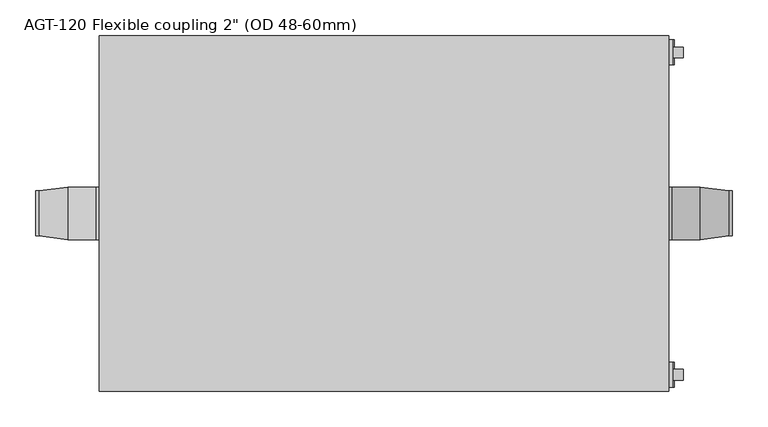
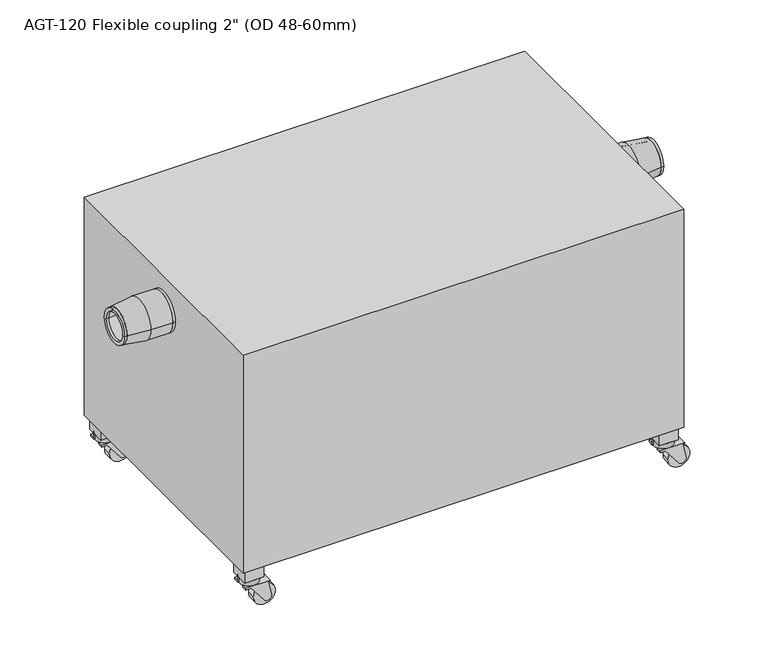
"""IFC4 building model written with IfcOpenShell, lengths in millimetres: unitary equipment geometry."""

from ifc_helpers import new_model, si_unit, point, frame, frame_2d, origin, place, context, project, spatial, polyline, circle_curve, trimmed, segment, composite_curve, outline, extrude, faceted_brep, source, transform, mapped, element, save
from ifc_brep_helpers import plane_surface, cylinder_surface, revolved_surface, advanced_brep


def unitary_equipment_0f0e036c(model_context):
    return source(origin(), model_context, "Body", "SolidModel", [
        advanced_brep(
        [(484.694081, 31.65, 422.5), (484.694081, -31.65, 422.5), (484.694081, -25.0, 422.5), (484.694081, 25.0, 422.5), (444.694081, 36.8, 422.5), (444.694081, -36.8, 422.5), (405.0, 36.8, 422.5), (405.0, -36.8, 422.5), (405.0, 30.15, 422.5), (405.0, -30.15, 422.5), (444.694081, 30.15, 422.5), (444.694081, -30.15, 422.5)],
        [
            (0, 1, circle_curve(frame((484.694081, 0.0, 422.5), z_axis=(1.0, 0.0, 0.0), x_axis=(0.0, 1.0, 0.0)), 31.65)),
            (1, 0, circle_curve(frame((484.694081, 0.0, 422.5), z_axis=(1.0, 0.0, 0.0), x_axis=(0.0, -1.0, 0.0)), 31.65)),
            (2, 3, circle_curve(frame((484.694081, 0.0, 422.5), z_axis=(-1.0, 0.0, 0.0), x_axis=(0.0, 1.0, 0.0)), 25.0)),
            (3, 2, circle_curve(frame((484.694081, 0.0, 422.5), z_axis=(-1.0, 0.0, 0.0), x_axis=(0.0, -1.0, 0.0)), 25.0)),
            (0, 4),
            (4, 5, circle_curve(frame((444.694081, 0.0, 422.5), z_axis=(1.0, 0.0, 0.0), x_axis=(0.0, 1.0, 0.0)), 36.8)),
            (5, 1),
            (5, 4, circle_curve(frame((444.694081, 0.0, 422.5), z_axis=(1.0, 0.0, 0.0), x_axis=(0.0, -1.0, 0.0)), 36.8)),
            (6, 7, circle_curve(frame((405.0, 0.0, 422.5), z_axis=(-1.0, 0.0, 0.0), x_axis=(0.0, -1.0, 0.0)), 36.8)),
            (7, 6, circle_curve(frame((405.0, 0.0, 422.5), z_axis=(-1.0, 0.0, 0.0), x_axis=(0.0, -1.0, 0.0)), 36.8)),
            (8, 9, circle_curve(frame((405.0, 0.0, 422.5), z_axis=(1.0, 0.0, 0.0), x_axis=(0.0, -1.0, 0.0)), 30.15)),
            (9, 8, circle_curve(frame((405.0, 0.0, 422.5), z_axis=(1.0, 0.0, 0.0), x_axis=(0.0, -1.0, 0.0)), 30.15)),
            (7, 5),
            (4, 6),
            (8, 10),
            (10, 11, circle_curve(frame((444.694081, 0.0, 422.5), z_axis=(1.0, 0.0, 0.0), x_axis=(0.0, -1.0, 0.0)), 30.15)),
            (11, 9),
            (11, 10, circle_curve(frame((444.694081, 0.0, 422.5), z_axis=(1.0, 0.0, 0.0), x_axis=(0.0, -1.0, 0.0)), 30.15)),
            (10, 3),
            (2, 11),
        ],
        [
            plane_surface(frame((484.694081, 0.0, 422.5), z_axis=(1.0, 0.0, 0.0), x_axis=(0.0, 0.0, -1.0))),
            revolved_surface(polyline([(484.694081, 31.649999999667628, 422.5), (444.694081, 36.8, 422.5)]), (730.5193237, 0.0, 422.5), (-1.0, 0.0, 0.0)),
            revolved_surface(polyline([(484.694081, -31.649999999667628, 422.5), (444.694081, -36.8, 422.5)]), (730.5193237, 0.0, 422.5), (-1.0, 0.0, 0.0)),
            plane_surface(frame((405.0, -36.8, 422.5), z_axis=(-1.0, 0.0, 0.0), x_axis=(0.0, 0.0, 1.0))),
            cylinder_surface(frame((444.694081, 0.0, 422.5), z_axis=(-1.0, 0.0, 0.0), x_axis=(0.0, -1.0, 0.0)), 36.8),
            revolved_surface(polyline([(444.694081, -30.15, 422.5), (405.0, -30.15, 422.5)]), (444.694081, 0.0, 422.5), (1.0, 0.0, 0.0)),
            revolved_surface(polyline([(444.694081, 30.15, 422.5), (484.694081, 25.000000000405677, 422.5)]), (678.8688383, 0.0, 422.5), (-1.0, 0.0, 0.0)),
        ],
        [
            (0, [[1, 2], [3, 4]]),
            (1, [[-1, 5, 6, 7]]),
            (2, [[-2, -7, 8, -5]]),
            (3, [[9, 10], [11, 12]]),
            (4, [[-10, 13, -6, 14]]),
            (4, [[-9, -14, -8, -13]]),
            (5, [[-11, 15, 16, 17]]),
            (5, [[-12, -17, 18, -15]]),
            (6, [[19, -3, 20, -16]]),
            (6, [[-19, -18, -20, -4]]),
        ],
    ),
        extrude(outline(composite_curve([segment(trimmed(circle_curve(frame_2d((0.0, 422.5)), 36.8), [point((36.8, 422.5))], [point((-36.8, 422.5))], False, "CARTESIAN"), True, "CONTINUOUS"), segment(trimmed(circle_curve(frame_2d((0.0, 422.5)), 36.8), [point((-36.8, 422.5))], [point((36.8, 422.5))], False, "CARTESIAN"), True, "CONTINUOUS")], self_intersect=False), holes=[composite_curve([segment(trimmed(circle_curve(frame_2d((0.0, 422.5)), 30.15), [point((30.15, 422.5))], [point((-30.15, 422.5))], True, "CARTESIAN"), True, "CONTINUOUS"), segment(trimmed(circle_curve(frame_2d((0.0, 422.5)), 30.15), [point((-30.15, 422.5))], [point((30.15, 422.5))], True, "CARTESIAN"), True, "CONTINUOUS")], self_intersect=False)]), frame((400.0, 0.0, 0.0), z_axis=(1.0, 0.0, 0.0), x_axis=(0.0, 1.0, 0.0)), (0.0, 0.0, 1.0), 5.0),
        extrude(outline(composite_curve([segment(trimmed(circle_curve(frame_2d((0.0, 422.5)), 31.65), [point((31.65, 422.5))], [point((-31.65, 422.5))], False, "CARTESIAN"), True, "CONTINUOUS"), segment(trimmed(circle_curve(frame_2d((0.0, 422.5)), 31.65), [point((-31.65, 422.5))], [point((31.65, 422.5))], False, "CARTESIAN"), True, "CONTINUOUS")], self_intersect=False), holes=[composite_curve([segment(trimmed(circle_curve(frame_2d((0.0, 422.5)), 25.0), [point((25.0, 422.5))], [point((-25.0, 422.5))], True, "CARTESIAN"), True, "CONTINUOUS"), segment(trimmed(circle_curve(frame_2d((0.0, 422.5)), 25.0), [point((-25.0, 422.5))], [point((25.0, 422.5))], True, "CARTESIAN"), True, "CONTINUOUS")], self_intersect=False)]), frame((484.694081, 0.0, 0.0), z_axis=(1.0, 0.0, 0.0), x_axis=(0.0, 1.0, 0.0)), (0.0, 0.0, 1.0), 5.0),
        advanced_brep(
        [(405.5, 209.0, 49.9879884), (361.0, 209.0, 49.9879884), (361.0, 209.0, 46.001375), (370.7057978, 209.0, 46.001375), (394.7212283, 209.0, 15.4460703), (407.8500166, 209.0, 20.009866), (402.0603884, 209.0, 48.4879884), (405.5, 209.0, 48.4879884), (405.5, 244.0, 49.9879884), (405.5, 244.0, 48.4879884), (402.0603884, 244.0, 48.4879884), (407.8500166, 244.0, 20.009866), (394.7212283, 244.0, 15.4460703), (370.7057978, 244.0, 46.001375), (361.0, 244.0, 46.001375), (361.0, 244.0, 49.9879884), (361.0, 234.0, 46.001375), (361.0, 234.0, 48.4879884), (361.0, 219.0, 48.4879884), (361.0, 219.0, 46.001375), (402.0603884, 219.0, 48.4879884), (402.0603884, 234.0, 48.4879884), (370.7057978, 234.0, 46.001375), (394.7212283, 234.0, 15.4460703), (407.8500166, 234.0, 20.009866), (407.8500166, 219.0, 20.009866), (394.7212283, 219.0, 15.4460703), (370.7057978, 219.0, 46.001375)],
        [
            (0, 1),
            (1, 2),
            (2, 3),
            (3, 4),
            (4, 5, circle_curve(frame((400.5, 209.0, 19.9879884), z_axis=(0.0, -1.0, 0.0), x_axis=(1.0, 0.0, 0.0)), 7.3500491)),
            (5, 6),
            (6, 7),
            (7, 0),
            (8, 9),
            (9, 10),
            (10, 11),
            (11, 12, circle_curve(frame((400.5, 244.0, 19.9879884), z_axis=(0.0, 1.0, 0.0), x_axis=(1.0, 0.0, 0.0)), 7.3500491)),
            (12, 13),
            (13, 14),
            (14, 15),
            (15, 8),
            (0, 8),
            (15, 1),
            (14, 16),
            (16, 17),
            (17, 18),
            (18, 19),
            (19, 2),
            (7, 9),
            (6, 20),
            (20, 18),
            (17, 21),
            (21, 10),
            (16, 22),
            (22, 23),
            (23, 24, circle_curve(frame((400.5, 234.0, 19.9879884), z_axis=(0.0, -1.0, 0.0), x_axis=(1.0, 0.0, 0.0)), 7.3500491)),
            (24, 21),
            (20, 25),
            (25, 26, circle_curve(frame((400.5, 219.0, 19.9879884), z_axis=(0.0, 1.0, 0.0), x_axis=(1.0, 0.0, 0.0)), 7.3500491)),
            (26, 27),
            (27, 19),
            (27, 3),
            (13, 22),
            (26, 4),
            (12, 23),
            (25, 5),
            (11, 24),
        ],
        [
            plane_surface(frame((366.3571745, 209.0, 49.9879884), z_axis=(0.0, -1.0, 0.0), x_axis=(-1.0, 0.0, 0.0))),
            plane_surface(frame((366.3571745, 244.0, 49.9879884), z_axis=(0.0, 1.0, 0.0), x_axis=(1.0, 0.0, 0.0))),
            plane_surface(frame((405.5, 209.0, 49.9879884), z_axis=(0.0, 0.0, 1.0), x_axis=(0.0, 1.0, 0.0))),
            plane_surface(frame((361.0, 209.0, 49.9879884), z_axis=(-1.0, 0.0, 0.0), x_axis=(0.0, 1.0, 0.0))),
            plane_surface(frame((405.5, 209.0, 48.4879884), z_axis=(1.0, 0.0, 0.0), x_axis=(0.0, 1.0, 0.0))),
            plane_surface(frame((402.0603884, 209.0, 48.4879884), z_axis=(0.0, 0.0, -1.0), x_axis=(0.0, 1.0, 0.0))),
            plane_surface(frame((434.838042, 234.0, 4.9523362), z_axis=(0.0, -1.0, 0.0), x_axis=(-1.0, 0.0, 0.0))),
            plane_surface(frame((434.838042, 219.0, 48.4879884), z_axis=(0.0, 1.0, 0.0), x_axis=(-1.0, 0.0, 0.0))),
            plane_surface(frame((361.0, 209.0, 46.001375), z_axis=(0.0, 0.0, -1.0), x_axis=(0.0, 1.0, 0.0))),
            plane_surface(frame((370.7057978, 209.0, 46.001375), z_axis=(-0.786222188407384, 0.0, -0.6179439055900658), x_axis=(0.0, 1.0, 0.0))),
            cylinder_surface(frame((400.5, 244.0, 19.9879884), z_axis=(0.0, -1.0, 0.0), x_axis=(1.0, 0.0, 0.0)), 7.3500491),
            plane_surface(frame((407.8500166, 209.0, 20.009866), z_axis=(0.9799536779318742, 0.0, 0.19922547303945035), x_axis=(0.0, 1.0, 0.0))),
        ],
        [
            (0, [[1, 2, 3, 4, 5, 6, 7, 8]]),
            (1, [[9, 10, 11, 12, 13, 14, 15, 16]]),
            (2, [[-1, 17, -16, 18]]),
            (3, [[-2, -18, -15, 19, 20, 21, 22, 23]]),
            (4, [[-8, 24, -9, -17]]),
            (5, [[-7, 25, 26, -21, 27, 28, -10, -24]]),
            (6, [[-27, -20, 29, 30, 31, 32]]),
            (7, [[-26, 33, 34, 35, 36, -22]]),
            (8, [[-3, -23, -36, 37]]),
            (8, [[-14, 38, -29, -19]]),
            (9, [[-4, -37, -35, 39]]),
            (9, [[-13, 40, -30, -38]]),
            (10, [[-5, -39, -34, 41]]),
            (10, [[-12, 42, -31, -40]]),
            (11, [[-6, -41, -33, -25]]),
            (11, [[-11, -28, -32, -42]]),
        ],
    ),
        extrude(outline(composite_curve([segment(trimmed(circle_curve(frame_2d((20.0, 400.5)), 20.0), [point((20.0, 380.5))], [point((20.0, 420.5))], False, "CARTESIAN"), True, "CONTINUOUS"), segment(trimmed(circle_curve(frame_2d((20.0, 400.5)), 20.0), [point((20.0, 420.5))], [point((20.0, 380.5))], False, "CARTESIAN"), True, "CONTINUOUS")], self_intersect=False)), frame((0.0, 219.0, 0.0), z_axis=(0.0, 1.0, 0.0), x_axis=(0.0, 0.0, 1.0)), (0.0, 0.0, 1.0), 15.0),
        extrude(outline(composite_curve([segment(trimmed(circle_curve(frame_2d((376.5, 226.5)), 17.5), [point((359.0, 226.5))], [point((394.0, 226.5))], False, "CARTESIAN"), True, "CONTINUOUS"), segment(trimmed(circle_curve(frame_2d((376.5, 226.5)), 17.5), [point((394.0, 226.5))], [point((359.0, 226.5))], False, "CARTESIAN"), True, "CONTINUOUS")], self_intersect=False)), frame((0.0, 0.0, 49.9879884), z_axis=(0.0, 0.0, 1.0), x_axis=(1.0, 0.0, 0.0)), (0.0, 0.0, 1.0), 10.0120116),
        advanced_brep(
        [(-347.5, 209.0, 49.9879884), (-392.0, 209.0, 49.9879884), (-392.0, 209.0, 46.001375), (-382.2942022, 209.0, 46.001375), (-358.2787717, 209.0, 15.4460703), (-345.1499834, 209.0, 20.009866), (-350.9396116, 209.0, 48.4879884), (-347.5, 209.0, 48.4879884), (-347.5, 244.0, 49.9879884), (-347.5, 244.0, 48.4879884), (-350.9396116, 244.0, 48.4879884), (-345.1499834, 244.0, 20.009866), (-358.2787717, 244.0, 15.4460703), (-382.2942022, 244.0, 46.001375), (-392.0, 244.0, 46.001375), (-392.0, 244.0, 49.9879884), (-392.0, 234.0, 46.001375), (-392.0, 234.0, 48.4879884), (-392.0, 219.0, 48.4879884), (-392.0, 219.0, 46.001375), (-350.9396116, 219.0, 48.4879884), (-350.9396116, 234.0, 48.4879884), (-382.2942022, 234.0, 46.001375), (-358.2787717, 234.0, 15.4460703), (-345.1499834, 234.0, 20.009866), (-345.1499834, 219.0, 20.009866), (-358.2787717, 219.0, 15.4460703), (-382.2942022, 219.0, 46.001375)],
        [
            (0, 1),
            (1, 2),
            (2, 3),
            (3, 4),
            (4, 5, circle_curve(frame((-352.5, 209.0, 19.9879884), z_axis=(0.0, -1.0, 0.0), x_axis=(1.0, 0.0, 0.0)), 7.3500491)),
            (5, 6),
            (6, 7),
            (7, 0),
            (8, 9),
            (9, 10),
            (10, 11),
            (11, 12, circle_curve(frame((-352.5, 244.0, 19.9879884), z_axis=(0.0, 1.0, 0.0), x_axis=(1.0, 0.0, 0.0)), 7.3500491)),
            (12, 13),
            (13, 14),
            (14, 15),
            (15, 8),
            (0, 8),
            (15, 1),
            (14, 16),
            (16, 17),
            (17, 18),
            (18, 19),
            (19, 2),
            (7, 9),
            (6, 20),
            (20, 18),
            (17, 21),
            (21, 10),
            (16, 22),
            (22, 23),
            (23, 24, circle_curve(frame((-352.5, 234.0, 19.9879884), z_axis=(0.0, -1.0, 0.0), x_axis=(1.0, 0.0, 0.0)), 7.3500491)),
            (24, 21),
            (20, 25),
            (25, 26, circle_curve(frame((-352.5, 219.0, 19.9879884), z_axis=(0.0, 1.0, 0.0), x_axis=(1.0, 0.0, 0.0)), 7.3500491)),
            (26, 27),
            (27, 19),
            (27, 3),
            (13, 22),
            (26, 4),
            (12, 23),
            (25, 5),
            (11, 24),
        ],
        [
            plane_surface(frame((-386.6428255, 209.0, 49.9879884), z_axis=(0.0, -1.0, 0.0), x_axis=(-1.0, 0.0, 0.0))),
            plane_surface(frame((-386.6428255, 244.0, 49.9879884), z_axis=(0.0, 1.0, 0.0), x_axis=(1.0, 0.0, 0.0))),
            plane_surface(frame((-347.5, 209.0, 49.9879884), z_axis=(0.0, 0.0, 1.0), x_axis=(0.0, 1.0, 0.0))),
            plane_surface(frame((-392.0, 209.0, 49.9879884), z_axis=(-1.0, 0.0, 0.0), x_axis=(0.0, 1.0, 0.0))),
            plane_surface(frame((-347.5, 209.0, 48.4879884), z_axis=(1.0, 0.0, 0.0), x_axis=(0.0, 1.0, 0.0))),
            plane_surface(frame((-350.9396116, 209.0, 48.4879884), z_axis=(0.0, 0.0, -1.0), x_axis=(0.0, 1.0, 0.0))),
            plane_surface(frame((-318.161958, 234.0, 4.9523362), z_axis=(0.0, -1.0, 0.0), x_axis=(-1.0, 0.0, 0.0))),
            plane_surface(frame((-318.161958, 219.0, 48.4879884), z_axis=(0.0, 1.0, 0.0), x_axis=(-1.0, 0.0, 0.0))),
            plane_surface(frame((-392.0, 209.0, 46.001375), z_axis=(0.0, 0.0, -1.0), x_axis=(0.0, 1.0, 0.0))),
            plane_surface(frame((-382.2942022, 209.0, 46.001375), z_axis=(-0.786222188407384, 0.0, -0.6179439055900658), x_axis=(0.0, 1.0, 0.0))),
            cylinder_surface(frame((-352.5, 244.0, 19.9879884), z_axis=(0.0, -1.0, 0.0), x_axis=(1.0, 0.0, 0.0)), 7.3500491),
            plane_surface(frame((-345.1499834, 209.0, 20.009866), z_axis=(0.9799536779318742, 0.0, 0.19922547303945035), x_axis=(0.0, 1.0, 0.0))),
        ],
        [
            (0, [[1, 2, 3, 4, 5, 6, 7, 8]]),
            (1, [[9, 10, 11, 12, 13, 14, 15, 16]]),
            (2, [[-1, 17, -16, 18]]),
            (3, [[-2, -18, -15, 19, 20, 21, 22, 23]]),
            (4, [[-8, 24, -9, -17]]),
            (5, [[-7, 25, 26, -21, 27, 28, -10, -24]]),
            (6, [[-27, -20, 29, 30, 31, 32]]),
            (7, [[-26, 33, 34, 35, 36, -22]]),
            (8, [[-3, -23, -36, 37]]),
            (8, [[-14, 38, -29, -19]]),
            (9, [[-4, -37, -35, 39]]),
            (9, [[-13, 40, -30, -38]]),
            (10, [[-5, -39, -34, 41]]),
            (10, [[-12, 42, -31, -40]]),
            (11, [[-6, -41, -33, -25]]),
            (11, [[-11, -28, -32, -42]]),
        ],
    ),
        extrude(outline(composite_curve([segment(trimmed(circle_curve(frame_2d((20.0, -352.5)), 20.0), [point((20.0, -372.5))], [point((20.0, -332.5))], False, "CARTESIAN"), True, "CONTINUOUS"), segment(trimmed(circle_curve(frame_2d((20.0, -352.5)), 20.0), [point((20.0, -332.5))], [point((20.0, -372.5))], False, "CARTESIAN"), True, "CONTINUOUS")], self_intersect=False)), frame((0.0, 219.0, 0.0), z_axis=(0.0, 1.0, 0.0), x_axis=(0.0, 0.0, 1.0)), (0.0, 0.0, 1.0), 15.0),
        extrude(outline(composite_curve([segment(trimmed(circle_curve(frame_2d((-376.5, 226.5)), 17.5), [point((-394.0, 226.5))], [point((-359.0, 226.5))], False, "CARTESIAN"), True, "CONTINUOUS"), segment(trimmed(circle_curve(frame_2d((-376.5, 226.5)), 17.5), [point((-359.0, 226.5))], [point((-394.0, 226.5))], False, "CARTESIAN"), True, "CONTINUOUS")], self_intersect=False)), frame((0.0, 0.0, 49.9879884), z_axis=(0.0, 0.0, 1.0), x_axis=(1.0, 0.0, 0.0)), (0.0, 0.0, 1.0), 10.0120116),
        advanced_brep(
        [(405.5, -244.0, 49.9879884), (361.0, -244.0, 49.9879884), (361.0, -244.0, 46.001375), (370.7057978, -244.0, 46.001375), (394.7212283, -244.0, 15.4460703), (407.8500166, -244.0, 20.009866), (402.0603884, -244.0, 48.4879884), (405.5, -244.0, 48.4879884), (405.5, -209.0, 49.9879884), (405.5, -209.0, 48.4879884), (402.0603884, -209.0, 48.4879884), (407.8500166, -209.0, 20.009866), (394.7212283, -209.0, 15.4460703), (370.7057978, -209.0, 46.001375), (361.0, -209.0, 46.001375), (361.0, -209.0, 49.9879884), (361.0, -219.0, 46.001375), (361.0, -219.0, 48.4879884), (361.0, -234.0, 48.4879884), (361.0, -234.0, 46.001375), (402.0603884, -234.0, 48.4879884), (402.0603884, -219.0, 48.4879884), (370.7057978, -219.0, 46.001375), (394.7212283, -219.0, 15.4460703), (407.8500166, -219.0, 20.009866), (407.8500166, -234.0, 20.009866), (394.7212283, -234.0, 15.4460703), (370.7057978, -234.0, 46.001375)],
        [
            (0, 1),
            (1, 2),
            (2, 3),
            (3, 4),
            (4, 5, circle_curve(frame((400.5, -244.0, 19.9879884), z_axis=(0.0, -1.0, 0.0), x_axis=(1.0, 0.0, 0.0)), 7.3500491)),
            (5, 6),
            (6, 7),
            (7, 0),
            (8, 9),
            (9, 10),
            (10, 11),
            (11, 12, circle_curve(frame((400.5, -209.0, 19.9879884), z_axis=(0.0, 1.0, 0.0), x_axis=(1.0, 0.0, 0.0)), 7.3500491)),
            (12, 13),
            (13, 14),
            (14, 15),
            (15, 8),
            (0, 8),
            (15, 1),
            (14, 16),
            (16, 17),
            (17, 18),
            (18, 19),
            (19, 2),
            (7, 9),
            (6, 20),
            (20, 18),
            (17, 21),
            (21, 10),
            (16, 22),
            (22, 23),
            (23, 24, circle_curve(frame((400.5, -219.0, 19.9879884), z_axis=(0.0, -1.0, 0.0), x_axis=(1.0, 0.0, 0.0)), 7.3500491)),
            (24, 21),
            (20, 25),
            (25, 26, circle_curve(frame((400.5, -234.0, 19.9879884), z_axis=(0.0, 1.0, 0.0), x_axis=(1.0, 0.0, 0.0)), 7.3500491)),
            (26, 27),
            (27, 19),
            (27, 3),
            (13, 22),
            (26, 4),
            (12, 23),
            (25, 5),
            (11, 24),
        ],
        [
            plane_surface(frame((366.3571745, -244.0, 49.9879884), z_axis=(0.0, -1.0, 0.0), x_axis=(-1.0, 0.0, 0.0))),
            plane_surface(frame((366.3571745, -209.0, 49.9879884), z_axis=(0.0, 1.0, 0.0), x_axis=(1.0, 0.0, 0.0))),
            plane_surface(frame((405.5, -244.0, 49.9879884), z_axis=(0.0, 0.0, 1.0), x_axis=(0.0, 1.0, 0.0))),
            plane_surface(frame((361.0, -244.0, 49.9879884), z_axis=(-1.0, 0.0, 0.0), x_axis=(0.0, 1.0, 0.0))),
            plane_surface(frame((405.5, -244.0, 48.4879884), z_axis=(1.0, 0.0, 0.0), x_axis=(0.0, 1.0, 0.0))),
            plane_surface(frame((402.0603884, -244.0, 48.4879884), z_axis=(0.0, 0.0, -1.0), x_axis=(0.0, 1.0, 0.0))),
            plane_surface(frame((434.838042, -219.0, 4.9523362), z_axis=(0.0, -1.0, 0.0), x_axis=(-1.0, 0.0, 0.0))),
            plane_surface(frame((434.838042, -234.0, 48.4879884), z_axis=(0.0, 1.0, 0.0), x_axis=(-1.0, 0.0, 0.0))),
            plane_surface(frame((361.0, -244.0, 46.001375), z_axis=(0.0, 0.0, -1.0), x_axis=(0.0, 1.0, 0.0))),
            plane_surface(frame((370.7057978, -244.0, 46.001375), z_axis=(-0.786222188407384, 0.0, -0.6179439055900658), x_axis=(0.0, 1.0, 0.0))),
            cylinder_surface(frame((400.5, -209.0, 19.9879884), z_axis=(0.0, -1.0, 0.0), x_axis=(1.0, 0.0, 0.0)), 7.3500491),
            plane_surface(frame((407.8500166, -244.0, 20.009866), z_axis=(0.9799536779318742, 0.0, 0.19922547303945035), x_axis=(0.0, 1.0, 0.0))),
        ],
        [
            (0, [[1, 2, 3, 4, 5, 6, 7, 8]]),
            (1, [[9, 10, 11, 12, 13, 14, 15, 16]]),
            (2, [[-1, 17, -16, 18]]),
            (3, [[-2, -18, -15, 19, 20, 21, 22, 23]]),
            (4, [[-8, 24, -9, -17]]),
            (5, [[-7, 25, 26, -21, 27, 28, -10, -24]]),
            (6, [[-27, -20, 29, 30, 31, 32]]),
            (7, [[-26, 33, 34, 35, 36, -22]]),
            (8, [[-3, -23, -36, 37]]),
            (8, [[-14, 38, -29, -19]]),
            (9, [[-4, -37, -35, 39]]),
            (9, [[-13, 40, -30, -38]]),
            (10, [[-5, -39, -34, 41]]),
            (10, [[-12, 42, -31, -40]]),
            (11, [[-6, -41, -33, -25]]),
            (11, [[-11, -28, -32, -42]]),
        ],
    ),
        extrude(outline(composite_curve([segment(trimmed(circle_curve(frame_2d((20.0, 400.5)), 20.0), [point((20.0, 380.5))], [point((20.0, 420.5))], False, "CARTESIAN"), True, "CONTINUOUS"), segment(trimmed(circle_curve(frame_2d((20.0, 400.5)), 20.0), [point((20.0, 420.5))], [point((20.0, 380.5))], False, "CARTESIAN"), True, "CONTINUOUS")], self_intersect=False)), frame((0.0, -234.0, 0.0), z_axis=(0.0, 1.0, 0.0), x_axis=(0.0, 0.0, 1.0)), (0.0, 0.0, 1.0), 15.0),
        extrude(outline(composite_curve([segment(trimmed(circle_curve(frame_2d((376.5, -226.5)), 17.5), [point((359.0, -226.5))], [point((394.0, -226.5))], False, "CARTESIAN"), True, "CONTINUOUS"), segment(trimmed(circle_curve(frame_2d((376.5, -226.5)), 17.5), [point((394.0, -226.5))], [point((359.0, -226.5))], False, "CARTESIAN"), True, "CONTINUOUS")], self_intersect=False)), frame((0.0, 0.0, 49.9879884), z_axis=(0.0, 0.0, 1.0), x_axis=(1.0, 0.0, 0.0)), (0.0, 0.0, 1.0), 10.0120116),
        advanced_brep(
        [(-347.5, -244.0, 49.9879884), (-392.0, -244.0, 49.9879884), (-392.0, -244.0, 46.001375), (-382.2942022, -244.0, 46.001375), (-358.2787717, -244.0, 15.4460703), (-345.1499834, -244.0, 20.009866), (-350.9396116, -244.0, 48.4879884), (-347.5, -244.0, 48.4879884), (-347.5, -209.0, 49.9879884), (-347.5, -209.0, 48.4879884), (-350.9396116, -209.0, 48.4879884), (-345.1499834, -209.0, 20.009866), (-358.2787717, -209.0, 15.4460703), (-382.2942022, -209.0, 46.001375), (-392.0, -209.0, 46.001375), (-392.0, -209.0, 49.9879884), (-392.0, -219.0, 46.001375), (-392.0, -219.0, 48.4879884), (-392.0, -234.0, 48.4879884), (-392.0, -234.0, 46.001375), (-350.9396116, -234.0, 48.4879884), (-350.9396116, -219.0, 48.4879884), (-382.2942022, -219.0, 46.001375), (-358.2787717, -219.0, 15.4460703), (-345.1499834, -219.0, 20.009866), (-345.1499834, -234.0, 20.009866), (-358.2787717, -234.0, 15.4460703), (-382.2942022, -234.0, 46.001375)],
        [
            (0, 1),
            (1, 2),
            (2, 3),
            (3, 4),
            (4, 5, circle_curve(frame((-352.5, -244.0, 19.9879884), z_axis=(0.0, -1.0, 0.0), x_axis=(1.0, 0.0, 0.0)), 7.3500491)),
            (5, 6),
            (6, 7),
            (7, 0),
            (8, 9),
            (9, 10),
            (10, 11),
            (11, 12, circle_curve(frame((-352.5, -209.0, 19.9879884), z_axis=(0.0, 1.0, 0.0), x_axis=(1.0, 0.0, 0.0)), 7.3500491)),
            (12, 13),
            (13, 14),
            (14, 15),
            (15, 8),
            (0, 8),
            (15, 1),
            (14, 16),
            (16, 17),
            (17, 18),
            (18, 19),
            (19, 2),
            (7, 9),
            (6, 20),
            (20, 18),
            (17, 21),
            (21, 10),
            (16, 22),
            (22, 23),
            (23, 24, circle_curve(frame((-352.5, -219.0, 19.9879884), z_axis=(0.0, -1.0, 0.0), x_axis=(1.0, 0.0, 0.0)), 7.3500491)),
            (24, 21),
            (20, 25),
            (25, 26, circle_curve(frame((-352.5, -234.0, 19.9879884), z_axis=(0.0, 1.0, 0.0), x_axis=(1.0, 0.0, 0.0)), 7.3500491)),
            (26, 27),
            (27, 19),
            (27, 3),
            (13, 22),
            (26, 4),
            (12, 23),
            (25, 5),
            (11, 24),
        ],
        [
            plane_surface(frame((-386.6428255, -244.0, 49.9879884), z_axis=(0.0, -1.0, 0.0), x_axis=(-1.0, 0.0, 0.0))),
            plane_surface(frame((-386.6428255, -209.0, 49.9879884), z_axis=(0.0, 1.0, 0.0), x_axis=(1.0, 0.0, 0.0))),
            plane_surface(frame((-347.5, -244.0, 49.9879884), z_axis=(0.0, 0.0, 1.0), x_axis=(0.0, 1.0, 0.0))),
            plane_surface(frame((-392.0, -244.0, 49.9879884), z_axis=(-1.0, 0.0, 0.0), x_axis=(0.0, 1.0, 0.0))),
            plane_surface(frame((-347.5, -244.0, 48.4879884), z_axis=(1.0, 0.0, 0.0), x_axis=(0.0, 1.0, 0.0))),
            plane_surface(frame((-350.9396116, -244.0, 48.4879884), z_axis=(0.0, 0.0, -1.0), x_axis=(0.0, 1.0, 0.0))),
            plane_surface(frame((-318.161958, -219.0, 4.9523362), z_axis=(0.0, -1.0, 0.0), x_axis=(-1.0, 0.0, 0.0))),
            plane_surface(frame((-318.161958, -234.0, 48.4879884), z_axis=(0.0, 1.0, 0.0), x_axis=(-1.0, 0.0, 0.0))),
            plane_surface(frame((-392.0, -244.0, 46.001375), z_axis=(0.0, 0.0, -1.0), x_axis=(0.0, 1.0, 0.0))),
            plane_surface(frame((-382.2942022, -244.0, 46.001375), z_axis=(-0.786222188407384, 0.0, -0.6179439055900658), x_axis=(0.0, 1.0, 0.0))),
            cylinder_surface(frame((-352.5, -209.0, 19.9879884), z_axis=(0.0, -1.0, 0.0), x_axis=(1.0, 0.0, 0.0)), 7.3500491),
            plane_surface(frame((-345.1499834, -244.0, 20.009866), z_axis=(0.9799536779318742, 0.0, 0.19922547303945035), x_axis=(0.0, 1.0, 0.0))),
        ],
        [
            (0, [[1, 2, 3, 4, 5, 6, 7, 8]]),
            (1, [[9, 10, 11, 12, 13, 14, 15, 16]]),
            (2, [[-1, 17, -16, 18]]),
            (3, [[-2, -18, -15, 19, 20, 21, 22, 23]]),
            (4, [[-8, 24, -9, -17]]),
            (5, [[-7, 25, 26, -21, 27, 28, -10, -24]]),
            (6, [[-27, -20, 29, 30, 31, 32]]),
            (7, [[-26, 33, 34, 35, 36, -22]]),
            (8, [[-3, -23, -36, 37]]),
            (8, [[-14, 38, -29, -19]]),
            (9, [[-4, -37, -35, 39]]),
            (9, [[-13, 40, -30, -38]]),
            (10, [[-5, -39, -34, 41]]),
            (10, [[-12, 42, -31, -40]]),
            (11, [[-6, -41, -33, -25]]),
            (11, [[-11, -28, -32, -42]]),
        ],
    ),
        extrude(outline(composite_curve([segment(trimmed(circle_curve(frame_2d((20.0, -352.5)), 20.0), [point((20.0, -372.5))], [point((20.0, -332.5))], False, "CARTESIAN"), True, "CONTINUOUS"), segment(trimmed(circle_curve(frame_2d((20.0, -352.5)), 20.0), [point((20.0, -332.5))], [point((20.0, -372.5))], False, "CARTESIAN"), True, "CONTINUOUS")], self_intersect=False)), frame((0.0, -234.0, 0.0), z_axis=(0.0, 1.0, 0.0), x_axis=(0.0, 0.0, 1.0)), (0.0, 0.0, 1.0), 15.0),
        extrude(outline(composite_curve([segment(trimmed(circle_curve(frame_2d((-376.5, -226.5)), 17.5), [point((-394.0, -226.5))], [point((-359.0, -226.5))], False, "CARTESIAN"), True, "CONTINUOUS"), segment(trimmed(circle_curve(frame_2d((-376.5, -226.5)), 17.5), [point((-359.0, -226.5))], [point((-394.0, -226.5))], False, "CARTESIAN"), True, "CONTINUOUS")], self_intersect=False)), frame((0.0, 0.0, 49.9879884), z_axis=(0.0, 0.0, 1.0), x_axis=(1.0, 0.0, 0.0)), (0.0, 0.0, 1.0), 10.0120116),
        advanced_brep(
        [(-484.694081, -31.65, 438.5), (-484.694081, 31.65, 438.5), (-484.694081, 25.0, 438.5), (-484.694081, -25.0, 438.5), (-444.694081, -36.8, 438.5), (-444.694081, 36.8, 438.5), (-405.0, -36.8, 438.5), (-405.0, 36.8, 438.5), (-405.0, -30.15, 438.5), (-405.0, 30.15, 438.5), (-444.694081, -30.15, 438.5), (-444.694081, 30.15, 438.5)],
        [
            (0, 1, circle_curve(frame((-484.694081, 0.0, 438.5), z_axis=(-1.0, 0.0, 0.0), x_axis=(0.0, -1.0, 0.0)), 31.65)),
            (1, 0, circle_curve(frame((-484.694081, 0.0, 438.5), z_axis=(-1.0, 0.0, 0.0), x_axis=(0.0, 1.0, 0.0)), 31.65)),
            (2, 3, circle_curve(frame((-484.694081, 0.0, 438.5), z_axis=(1.0, 0.0, 0.0), x_axis=(0.0, -1.0, 0.0)), 25.0)),
            (3, 2, circle_curve(frame((-484.694081, 0.0, 438.5), z_axis=(1.0, 0.0, 0.0), x_axis=(0.0, 1.0, 0.0)), 25.0)),
            (0, 4),
            (4, 5, circle_curve(frame((-444.694081, 0.0, 438.5), z_axis=(-1.0, 0.0, 0.0), x_axis=(0.0, -1.0, 0.0)), 36.8)),
            (5, 1),
            (5, 4, circle_curve(frame((-444.694081, 0.0, 438.5), z_axis=(-1.0, 0.0, 0.0), x_axis=(0.0, 1.0, 0.0)), 36.8)),
            (6, 7, circle_curve(frame((-405.0, 0.0, 438.5), z_axis=(1.0, 0.0, 0.0), x_axis=(0.0, 1.0, 0.0)), 36.8)),
            (7, 6, circle_curve(frame((-405.0, 0.0, 438.5), z_axis=(1.0, 0.0, 0.0), x_axis=(0.0, 1.0, 0.0)), 36.8)),
            (8, 9, circle_curve(frame((-405.0, 0.0, 438.5), z_axis=(-1.0, 0.0, 0.0), x_axis=(0.0, 1.0, 0.0)), 30.15)),
            (9, 8, circle_curve(frame((-405.0, 0.0, 438.5), z_axis=(-1.0, 0.0, 0.0), x_axis=(0.0, 1.0, 0.0)), 30.15)),
            (7, 5),
            (4, 6),
            (8, 10),
            (10, 11, circle_curve(frame((-444.694081, 0.0, 438.5), z_axis=(-1.0, 0.0, 0.0), x_axis=(0.0, 1.0, 0.0)), 30.15)),
            (11, 9),
            (11, 10, circle_curve(frame((-444.694081, 0.0, 438.5), z_axis=(-1.0, 0.0, 0.0), x_axis=(0.0, 1.0, 0.0)), 30.15)),
            (10, 3),
            (2, 11),
        ],
        [
            plane_surface(frame((-484.694081, 0.0, 438.5), z_axis=(-1.0, 0.0, 0.0), x_axis=(0.0, 0.0, -1.0))),
            revolved_surface(polyline([(-484.694081, -31.649999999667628, 438.5), (-444.694081, -36.8, 438.5)]), (-730.5193237, 0.0, 438.5), (1.0, 0.0, 0.0)),
            revolved_surface(polyline([(-484.694081, 31.649999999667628, 438.5), (-444.694081, 36.8, 438.5)]), (-730.5193237, 0.0, 438.5), (1.0, 0.0, 0.0)),
            plane_surface(frame((-405.0, 36.8, 438.5), z_axis=(1.0, 0.0, 0.0), x_axis=(0.0, 0.0, 1.0))),
            cylinder_surface(frame((-444.694081, 0.0, 438.5), z_axis=(1.0, 0.0, 0.0), x_axis=(0.0, 1.0, 0.0)), 36.8),
            revolved_surface(polyline([(-444.694081, 30.15, 438.5), (-405.0, 30.15, 438.5)]), (-444.694081, 0.0, 438.5), (-1.0, 0.0, 0.0)),
            revolved_surface(polyline([(-444.694081, -30.15, 438.5), (-484.694081, -25.000000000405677, 438.5)]), (-678.8688383, 0.0, 438.5), (1.0, 0.0, 0.0)),
        ],
        [
            (0, [[1, 2], [3, 4]]),
            (1, [[-1, 5, 6, 7]]),
            (2, [[-2, -7, 8, -5]]),
            (3, [[9, 10], [11, 12]]),
            (4, [[-10, 13, -6, 14]]),
            (4, [[-9, -14, -8, -13]]),
            (5, [[-11, 15, 16, 17]]),
            (5, [[-12, -17, 18, -15]]),
            (6, [[19, -3, 20, -16]]),
            (6, [[-19, -18, -20, -4]]),
        ],
    ),
        extrude(outline(composite_curve([segment(trimmed(circle_curve(frame_2d((0.0, 438.5)), 36.8), [point((-36.8, 438.5))], [point((36.8, 438.5))], False, "CARTESIAN"), True, "CONTINUOUS"), segment(trimmed(circle_curve(frame_2d((0.0, 438.5)), 36.8), [point((36.8, 438.5))], [point((-36.8, 438.5))], False, "CARTESIAN"), True, "CONTINUOUS")], self_intersect=False), holes=[composite_curve([segment(trimmed(circle_curve(frame_2d((0.0, 438.5)), 30.15), [point((-30.15, 438.5))], [point((30.15, 438.5))], True, "CARTESIAN"), True, "CONTINUOUS"), segment(trimmed(circle_curve(frame_2d((0.0, 438.5)), 30.15), [point((30.15, 438.5))], [point((-30.15, 438.5))], True, "CARTESIAN"), True, "CONTINUOUS")], self_intersect=False)]), frame((-405.0, 0.0, 0.0), z_axis=(1.0, 0.0, 0.0), x_axis=(0.0, 1.0, 0.0)), (0.0, 0.0, 1.0), 5.0),
        extrude(outline(composite_curve([segment(trimmed(circle_curve(frame_2d((0.0, 438.5)), 31.65), [point((-31.65, 438.5))], [point((31.65, 438.5))], False, "CARTESIAN"), True, "CONTINUOUS"), segment(trimmed(circle_curve(frame_2d((0.0, 438.5)), 31.65), [point((31.65, 438.5))], [point((-31.65, 438.5))], False, "CARTESIAN"), True, "CONTINUOUS")], self_intersect=False), holes=[composite_curve([segment(trimmed(circle_curve(frame_2d((0.0, 438.5)), 25.0), [point((-25.0, 438.5))], [point((25.0, 438.5))], True, "CARTESIAN"), True, "CONTINUOUS"), segment(trimmed(circle_curve(frame_2d((0.0, 438.5)), 25.0), [point((25.0, 438.5))], [point((-25.0, 438.5))], True, "CARTESIAN"), True, "CONTINUOUS")], self_intersect=False)]), frame((-489.694081, 0.0, 0.0), z_axis=(1.0, 0.0, 0.0), x_axis=(0.0, 1.0, 0.0)), (0.0, 0.0, 1.0), 5.0),
        extrude(outline(composite_curve([segment(trimmed(circle_curve(frame_2d((0.0, 87.5)), 20.0), [point((-20.0, 87.5))], [point((20.0, 87.5))], False, "CARTESIAN"), True, "CONTINUOUS"), segment(trimmed(circle_curve(frame_2d((0.0, 87.5)), 20.0), [point((20.0, 87.5))], [point((-20.0, 87.5))], False, "CARTESIAN"), True, "CONTINUOUS")], self_intersect=False)), frame((400.0, 0.0, 0.0), z_axis=(1.0, 0.0, 0.0), x_axis=(0.0, 1.0, 0.0)), (0.0, 0.0, 1.0), 80.0),
        extrude(outline(composite_curve([segment(trimmed(circle_curve(frame_2d((0.0, 438.5)), 30.15), [point((-30.15, 438.5))], [point((30.15, 438.5))], False, "CARTESIAN"), True, "CONTINUOUS"), segment(trimmed(circle_curve(frame_2d((0.0, 438.5)), 30.15), [point((30.15, 438.5))], [point((-30.15, 438.5))], False, "CARTESIAN"), True, "CONTINUOUS")], self_intersect=False)), frame((-440.0, 0.0, 0.0), z_axis=(1.0, 0.0, 0.0), x_axis=(0.0, 1.0, 0.0)), (0.0, 0.0, 1.0), 40.0),
        extrude(outline(composite_curve([segment(trimmed(circle_curve(frame_2d((0.0, 422.5)), 30.15), [point((-30.15, 422.5))], [point((30.15, 422.5))], False, "CARTESIAN"), True, "CONTINUOUS"), segment(trimmed(circle_curve(frame_2d((0.0, 422.5)), 30.15), [point((30.15, 422.5))], [point((-30.15, 422.5))], False, "CARTESIAN"), True, "CONTINUOUS")], self_intersect=False)), frame((400.0, 0.0, 0.0), z_axis=(1.0, 0.0, 0.0), x_axis=(0.0, 1.0, 0.0)), (0.0, 0.0, 1.0), 40.0),
        extrude(outline(polyline([(-359.0, 244.0), (-359.0, 209.0), (-394.0, 209.0), (-394.0, 244.0), (-359.0, 244.0)])), frame((0.0, 0.0, 60.0), z_axis=(0.0, 0.0, 1.0), x_axis=(1.0, 0.0, 0.0)), (0.0, 0.0, 1.0), 25.0),
        extrude(outline(polyline([(359.0, 244.0), (394.0, 244.0), (394.0, 209.0), (359.0, 209.0), (359.0, 244.0)])), frame((0.0, 0.0, 60.0), z_axis=(0.0, 0.0, 1.0), x_axis=(1.0, 0.0, 0.0)), (0.0, 0.0, 1.0), 25.0),
        extrude(outline(polyline([(-359.0, -244.0), (-394.0, -244.0), (-394.0, -209.0), (-359.0, -209.0), (-359.0, -244.0)])), frame((0.0, 0.0, 60.0), z_axis=(0.0, 0.0, 1.0), x_axis=(1.0, 0.0, 0.0)), (0.0, 0.0, 1.0), 25.0),
        extrude(outline(polyline([(359.0, -244.0), (359.0, -209.0), (394.0, -209.0), (394.0, -244.0), (359.0, -244.0)])), frame((0.0, 0.0, 60.0), z_axis=(0.0, 0.0, 1.0), x_axis=(1.0, 0.0, 0.0)), (0.0, 0.0, 1.0), 25.0),
        faceted_brep([(-400.0, -250.0, 504.0), (-400.0, 250.0, 504.0), (-400.0, 250.0, 85.0), (-400.0, -250.0, 85.0), (400.0, -250.0, 504.0), (400.0, -250.0, 85.0), (400.0, 0.0, 60.0), (400.0, 250.0, 85.0), (400.0, 250.0, 504.0)], [[[0, 1, 2, 3]], [[4, 5, 6, 7, 8]], [[5, 4, 0, 3]], [[8, 7, 2, 1]], [[4, 8, 1, 0]], [[6, 5, 3]], [[7, 6, 2]], [[3, 2, 6]]]),
    ])


if __name__ == "__main__":
    model = new_model("IFC4")
    model_context = context("Model", 3, world=origin())
    ifc_project = project(units=[si_unit("LENGTHUNIT", "METRE", prefix="MILLI")], contexts=[model_context])
    site = spatial("IfcSite", under=ifc_project)
    building = spatial("IfcBuilding", under=site)
    placement = place(None, origin())
    unitary_equipment_shape = unitary_equipment_0f0e036c(model_context)
    element("IfcUnitaryEquipment", 1, ObjectType="ME_ST_UN_AGT grease trap_ACO : AGT-120 Flexible coupling 2\" (OD 48-60mm)", at=placement, inside=building, context=model_context, shape_type="MappedRepresentation", body=[
        mapped(unitary_equipment_shape, transform((0.0, 0.0, 0.0), x_axis=(1.0, 0.0, 0.0), y_axis=(0.0, 1.0, 0.0), z_axis=(0.0, 0.0, 1.0))),
    ])
    save(model, "model.ifc")
